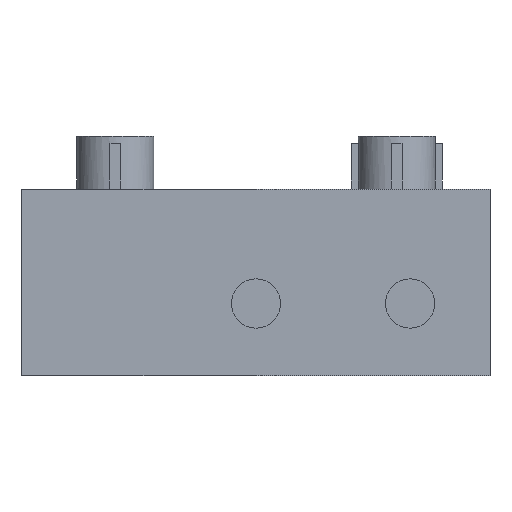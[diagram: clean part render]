
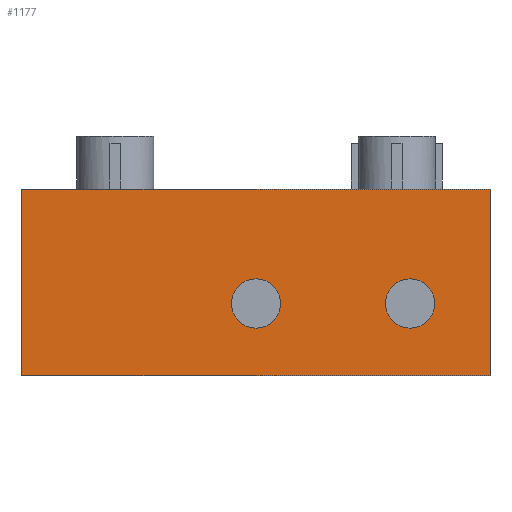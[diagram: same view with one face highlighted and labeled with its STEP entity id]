
A CAD part, front view. The second image highlights one B-rep face of the part: STEP entity #1177.
In plain terms, the highlighted planar face has unit normal (0, -1, 0).
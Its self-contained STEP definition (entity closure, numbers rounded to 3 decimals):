
#5 = ORIENTED_EDGE ( 'NONE', *, *, #14, .F. ) ;
#14 = EDGE_CURVE ( 'NONE', #2229, #1983, #260, .T. ) ;
#49 = ORIENTED_EDGE ( 'NONE', *, *, #60, .F. ) ;
#60 = EDGE_CURVE ( 'NONE', #464, #219, #528, .T. ) ;
#219 = VERTEX_POINT ( 'NONE', #1588 ) ;
#260 = LINE ( 'NONE', #261, #262 ) ;
#261 = CARTESIAN_POINT ( 'NONE',  ( -2.65, -9., -5.3 ) ) ;
#262 = VECTOR ( 'NONE', #263, 1000. ) ;
#263 = DIRECTION ( 'NONE',  ( -1., 0., 0. ) ) ;
#273 = EDGE_CURVE ( 'NONE', #219, #464, #1646, .T. ) ;
#464 = VERTEX_POINT ( 'NONE', #1714 ) ;
#517 = EDGE_LOOP ( 'NONE', ( #2269, #2255, #2212, #5 ) ) ;
#528 = CIRCLE ( 'NONE', #529, 0.7 ) ;
#529 = AXIS2_PLACEMENT_3D ( 'NONE', #530, #531, #532 ) ;
#530 = CARTESIAN_POINT ( 'NONE',  ( 4., -9., -3.25 ) ) ;
#531 = DIRECTION ( 'NONE',  ( 0., -1., 0. ) ) ;
#532 = DIRECTION ( 'NONE',  ( 0., 0., -1. ) ) ;
#548 = CIRCLE ( 'NONE', #549, 0.7 ) ;
#549 = AXIS2_PLACEMENT_3D ( 'NONE', #550, #551, #552 ) ;
#550 = CARTESIAN_POINT ( 'NONE',  ( 8.38, -9., -3.25 ) ) ;
#551 = DIRECTION ( 'NONE',  ( 0., -1., 0. ) ) ;
#552 = DIRECTION ( 'NONE',  ( 0., 0., -1. ) ) ;
#645 = FACE_BOUND ( 'NONE', #2102, .T. ) ;
#646 = FACE_OUTER_BOUND ( 'NONE', #517, .T. ) ;
#647 = FACE_BOUND ( 'NONE', #2147, .T. ) ;
#648 = PLANE ( 'NONE',  #649 ) ;
#649 = AXIS2_PLACEMENT_3D ( 'NONE', #650, #651, #655 ) ;
#650 = CARTESIAN_POINT ( 'NONE',  ( -2.65, -9., 14.392 ) ) ;
#651 = DIRECTION ( 'NONE',  ( 0., -1., 0. ) ) ;
#655 = DIRECTION ( 'NONE',  ( 0., 0., -1. ) ) ;
#1177 = ADVANCED_FACE ( 'NONE', ( #645, #646, #647 ), #648, .T. ) ;
#1260 = LINE ( 'NONE', #1261, #1262 ) ;
#1261 = CARTESIAN_POINT ( 'NONE',  ( -2.65, -9., 14.392 ) ) ;
#1262 = VECTOR ( 'NONE', #1264, 1000. ) ;
#1264 = DIRECTION ( 'NONE',  ( 0., 0., -1. ) ) ;
#1281 = CIRCLE ( 'NONE', #1282, 0.7 ) ;
#1282 = AXIS2_PLACEMENT_3D ( 'NONE', #1283, #1284, #1285 ) ;
#1283 = CARTESIAN_POINT ( 'NONE',  ( 8.38, -9., -3.25 ) ) ;
#1284 = DIRECTION ( 'NONE',  ( 0., -1., 0. ) ) ;
#1285 = DIRECTION ( 'NONE',  ( 0., 0., -1. ) ) ;
#1319 = LINE ( 'NONE', #1320, #1321 ) ;
#1320 = CARTESIAN_POINT ( 'NONE',  ( -2.65, -9., 0. ) ) ;
#1321 = VECTOR ( 'NONE', #1322, 1000. ) ;
#1322 = DIRECTION ( 'NONE',  ( -1., 0., 0. ) ) ;
#1323 = CARTESIAN_POINT ( 'NONE',  ( 10.65, -9., -5.3 ) ) ;
#1400 = CARTESIAN_POINT ( 'NONE',  ( 8.38, -9., -3.95 ) ) ;
#1405 = CARTESIAN_POINT ( 'NONE',  ( -2.65, -9., -5.3 ) ) ;
#1436 = CARTESIAN_POINT ( 'NONE',  ( 8.38, -9., -2.55 ) ) ;
#1469 = CARTESIAN_POINT ( 'NONE',  ( -2.65, -9., 0. ) ) ;
#1588 = CARTESIAN_POINT ( 'NONE',  ( 4., -9., -3.95 ) ) ;
#1646 = CIRCLE ( 'NONE', #1647, 0.7 ) ;
#1647 = AXIS2_PLACEMENT_3D ( 'NONE', #1648, #1649, #1650 ) ;
#1648 = CARTESIAN_POINT ( 'NONE',  ( 4., -9., -3.25 ) ) ;
#1649 = DIRECTION ( 'NONE',  ( 0., -1., 0. ) ) ;
#1650 = DIRECTION ( 'NONE',  ( 0., 0., -1. ) ) ;
#1675 = LINE ( 'NONE', #1676, #1677 ) ;
#1676 = CARTESIAN_POINT ( 'NONE',  ( 10.65, -9., 14.392 ) ) ;
#1677 = VECTOR ( 'NONE', #1678, 1000. ) ;
#1678 = DIRECTION ( 'NONE',  ( 0., 0., -1. ) ) ;
#1712 = CARTESIAN_POINT ( 'NONE',  ( 10.65, -9., 0. ) ) ;
#1714 = CARTESIAN_POINT ( 'NONE',  ( 4., -9., -2.55 ) ) ;
#1957 = EDGE_CURVE ( 'NONE', #2290, #1999, #1319, .T. ) ;
#1981 = VERTEX_POINT ( 'NONE', #1400 ) ;
#1983 = VERTEX_POINT ( 'NONE', #1405 ) ;
#1990 = VERTEX_POINT ( 'NONE', #1436 ) ;
#1999 = VERTEX_POINT ( 'NONE', #1469 ) ;
#2102 = EDGE_LOOP ( 'NONE', ( #49, #2201 ) ) ;
#2147 = EDGE_LOOP ( 'NONE', ( #2449, #2379 ) ) ;
#2201 = ORIENTED_EDGE ( 'NONE', *, *, #273, .F. ) ;
#2212 = ORIENTED_EDGE ( 'NONE', *, *, #2217, .T. ) ;
#2217 = EDGE_CURVE ( 'NONE', #1999, #1983, #1260, .T. ) ;
#2229 = VERTEX_POINT ( 'NONE', #1323 ) ;
#2255 = ORIENTED_EDGE ( 'NONE', *, *, #1957, .T. ) ;
#2269 = ORIENTED_EDGE ( 'NONE', *, *, #2280, .F. ) ;
#2280 = EDGE_CURVE ( 'NONE', #2290, #2229, #1675, .T. ) ;
#2290 = VERTEX_POINT ( 'NONE', #1712 ) ;
#2342 = EDGE_CURVE ( 'NONE', #1990, #1981, #548, .T. ) ;
#2379 = ORIENTED_EDGE ( 'NONE', *, *, #2446, .F. ) ;
#2446 = EDGE_CURVE ( 'NONE', #1981, #1990, #1281, .T. ) ;
#2449 = ORIENTED_EDGE ( 'NONE', *, *, #2342, .F. ) ;
